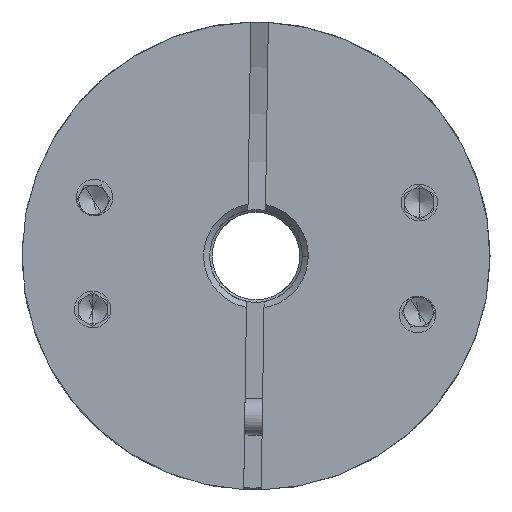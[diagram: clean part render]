
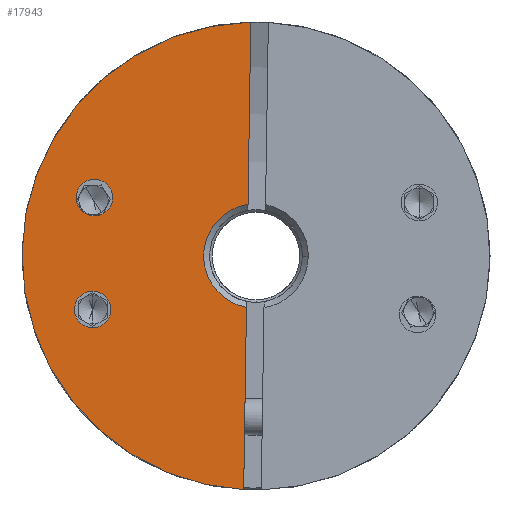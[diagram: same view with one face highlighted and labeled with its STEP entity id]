
A CAD part, front view. The second image highlights one B-rep face of the part: STEP entity #17943.
In plain terms, the highlighted planar face has unit normal (0, -1, 0).
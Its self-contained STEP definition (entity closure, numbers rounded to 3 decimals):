
#371 = AXIS2_PLACEMENT_3D ( 'NONE', #10375, #12640, #23537 ) ;
#674 = ORIENTED_EDGE ( 'NONE', *, *, #11784, .T. ) ;
#1066 = VERTEX_POINT ( 'NONE', #7436 ) ;
#1110 = CIRCLE ( 'NONE', #15395, 16. ) ;
#1121 = DIRECTION ( 'NONE',  ( 1., 0., -0.015 ) ) ;
#1960 = DIRECTION ( 'NONE',  ( 0., 1., 0. ) ) ;
#2003 = CARTESIAN_POINT ( 'NONE',  ( -60.021, -19.411, -15.978 ) ) ;
#2129 = EDGE_CURVE ( 'NONE', #14679, #7027, #7526, .T. ) ;
#2153 = FACE_BOUND ( 'NONE', #18702, .T. ) ;
#2215 = AXIS2_PLACEMENT_3D ( 'NONE', #8393, #21477, #10075 ) ;
#2932 = EDGE_CURVE ( 'NONE', #1066, #23906, #22995, .T. ) ;
#2986 = DIRECTION ( 'NONE',  ( -0.015, 0., -1. ) ) ;
#3173 = DIRECTION ( 'NONE',  ( 0., -1., 0. ) ) ;
#3355 = AXIS2_PLACEMENT_3D ( 'NONE', #23185, #19155, #21283 ) ;
#3499 = CARTESIAN_POINT ( 'NONE',  ( -71.479, -19.411, 4.013 ) ) ;
#3506 = DIRECTION ( 'NONE',  ( 1., 0., -0.015 ) ) ;
#3678 = CIRCLE ( 'NONE', #371, 16. ) ;
#3850 = ORIENTED_EDGE ( 'NONE', *, *, #15819, .T. ) ;
#4131 = ORIENTED_EDGE ( 'NONE', *, *, #13352, .T. ) ;
#4259 = CARTESIAN_POINT ( 'NONE',  ( -69.095, -19.411, -3.675 ) ) ;
#5030 = EDGE_CURVE ( 'NONE', #19498, #5097, #18540, .T. ) ;
#5033 = CARTESIAN_POINT ( 'NONE',  ( -59.178, -19.411, 0. ) ) ;
#5097 = VERTEX_POINT ( 'NONE', #22528 ) ;
#5224 = CIRCLE ( 'NONE', #2215, 1.25 ) ;
#5851 = PLANE ( 'NONE',  #13090 ) ;
#6065 = AXIS2_PLACEMENT_3D ( 'NONE', #16678, #11028, #9476 ) ;
#6492 = FACE_OUTER_BOUND ( 'NONE', #16699, .T. ) ;
#7027 = VERTEX_POINT ( 'NONE', #16672 ) ;
#7354 = CARTESIAN_POINT ( 'NONE',  ( -59.687, -19.411, 6.008 ) ) ;
#7436 = CARTESIAN_POINT ( 'NONE',  ( -59.832, -19.411, -3.515 ) ) ;
#7526 = LINE ( 'NONE', #7354, #10092 ) ;
#7788 = VECTOR ( 'NONE', #2986, 1000. ) ;
#7813 = DIRECTION ( 'NONE',  ( -0.015, 0., -1. ) ) ;
#8306 = CIRCLE ( 'NONE', #17275, 1.25 ) ;
#8393 = CARTESIAN_POINT ( 'NONE',  ( -70.345, -19.411, -3.656 ) ) ;
#9207 = ORIENTED_EDGE ( 'NONE', *, *, #9481, .T. ) ;
#9476 = DIRECTION ( 'NONE',  ( 1., 0., -0.015 ) ) ;
#9481 = EDGE_CURVE ( 'NONE', #14356, #23906, #1110, .T. ) ;
#10075 = DIRECTION ( 'NONE',  ( 1., 0., -0.015 ) ) ;
#10092 = VECTOR ( 'NONE', #7813, 1000. ) ;
#10375 = CARTESIAN_POINT ( 'NONE',  ( -59.178, -19.411, 0. ) ) ;
#10877 = ORIENTED_EDGE ( 'NONE', *, *, #5030, .T. ) ;
#11028 = DIRECTION ( 'NONE',  ( 0., 1., 0. ) ) ;
#11285 = ORIENTED_EDGE ( 'NONE', *, *, #15624, .T. ) ;
#11784 = EDGE_CURVE ( 'NONE', #1066, #7027, #19021, .T. ) ;
#12640 = DIRECTION ( 'NONE',  ( 0., -1., 0. ) ) ;
#12648 = AXIS2_PLACEMENT_3D ( 'NONE', #16536, #1960, #3506 ) ;
#12794 = CARTESIAN_POINT ( 'NONE',  ( -59.535, -19.411, 15.996 ) ) ;
#13090 = AXIS2_PLACEMENT_3D ( 'NONE', #18927, #13213, #20898 ) ;
#13213 = DIRECTION ( 'NONE',  ( 0., -1., 0. ) ) ;
#13352 = EDGE_CURVE ( 'NONE', #17208, #23464, #5224, .T. ) ;
#13625 = CIRCLE ( 'NONE', #3355, 1.25 ) ;
#13930 = EDGE_LOOP ( 'NONE', ( #4131, #17316 ) ) ;
#14356 = VERTEX_POINT ( 'NONE', #14995 ) ;
#14630 = CARTESIAN_POINT ( 'NONE',  ( -70.229, -19.411, 3.994 ) ) ;
#14679 = VERTEX_POINT ( 'NONE', #12794 ) ;
#14687 = FACE_BOUND ( 'NONE', #13930, .T. ) ;
#14925 = EDGE_CURVE ( 'NONE', #23464, #17208, #13625, .T. ) ;
#14995 = CARTESIAN_POINT ( 'NONE',  ( -75.176, -19.411, 0.243 ) ) ;
#15395 = AXIS2_PLACEMENT_3D ( 'NONE', #5033, #3173, #1121 ) ;
#15624 = EDGE_CURVE ( 'NONE', #14679, #14356, #3678, .T. ) ;
#15819 = EDGE_CURVE ( 'NONE', #5097, #19498, #8306, .T. ) ;
#16261 = CARTESIAN_POINT ( 'NONE',  ( -59.687, -19.411, 6.008 ) ) ;
#16536 = CARTESIAN_POINT ( 'NONE',  ( -70.229, -19.411, 3.994 ) ) ;
#16672 = CARTESIAN_POINT ( 'NONE',  ( -59.725, -19.411, 3.533 ) ) ;
#16678 = CARTESIAN_POINT ( 'NONE',  ( -59.178, -19.411, 0. ) ) ;
#16699 = EDGE_LOOP ( 'NONE', ( #24015, #674, #18704, #11285, #9207 ) ) ;
#17208 = VERTEX_POINT ( 'NONE', #21618 ) ;
#17275 = AXIS2_PLACEMENT_3D ( 'NONE', #14630, #18307, #18558 ) ;
#17316 = ORIENTED_EDGE ( 'NONE', *, *, #14925, .T. ) ;
#17943 = ADVANCED_FACE ( 'NONE', ( #6492, #2153, #14687 ), #5851, .T. ) ;
#18307 = DIRECTION ( 'NONE',  ( 0., 1., 0. ) ) ;
#18540 = CIRCLE ( 'NONE', #12648, 1.25 ) ;
#18558 = DIRECTION ( 'NONE',  ( 1., 0., -0.015 ) ) ;
#18702 = EDGE_LOOP ( 'NONE', ( #10877, #3850 ) ) ;
#18704 = ORIENTED_EDGE ( 'NONE', *, *, #2129, .F. ) ;
#18927 = CARTESIAN_POINT ( 'NONE',  ( -59.178, -19.411, 0. ) ) ;
#19021 = CIRCLE ( 'NONE', #6065, 3.575 ) ;
#19155 = DIRECTION ( 'NONE',  ( 0., 1., 0. ) ) ;
#19498 = VERTEX_POINT ( 'NONE', #3499 ) ;
#20898 = DIRECTION ( 'NONE',  ( 1., 0., -0.015 ) ) ;
#21283 = DIRECTION ( 'NONE',  ( 1., 0., -0.015 ) ) ;
#21477 = DIRECTION ( 'NONE',  ( 0., 1., 0. ) ) ;
#21618 = CARTESIAN_POINT ( 'NONE',  ( -71.595, -19.411, -3.637 ) ) ;
#22528 = CARTESIAN_POINT ( 'NONE',  ( -68.979, -19.411, 3.975 ) ) ;
#22995 = LINE ( 'NONE', #16261, #7788 ) ;
#23185 = CARTESIAN_POINT ( 'NONE',  ( -70.345, -19.411, -3.656 ) ) ;
#23464 = VERTEX_POINT ( 'NONE', #4259 ) ;
#23537 = DIRECTION ( 'NONE',  ( 1., 0., -0.015 ) ) ;
#23906 = VERTEX_POINT ( 'NONE', #2003 ) ;
#24015 = ORIENTED_EDGE ( 'NONE', *, *, #2932, .F. ) ;
